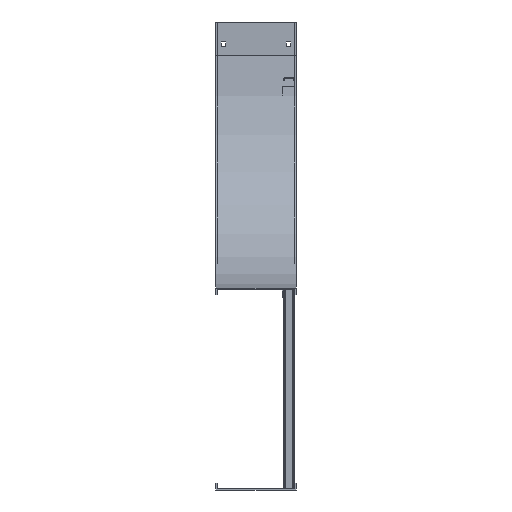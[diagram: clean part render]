
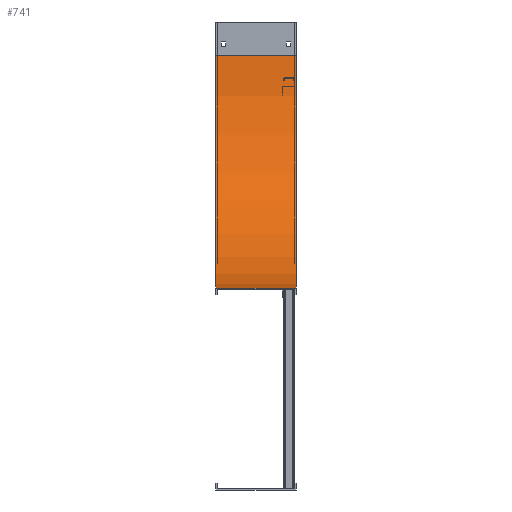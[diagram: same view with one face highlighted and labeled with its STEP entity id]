
A CAD part, left-side view. The second image highlights one B-rep face of the part: STEP entity #741.
In plain terms, the highlighted cylindrical face has radius 533.4 mm (diameter 1066.8 mm), a partial arc.
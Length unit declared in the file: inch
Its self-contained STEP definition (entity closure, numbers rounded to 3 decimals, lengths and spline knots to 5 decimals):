
#156=CARTESIAN_POINT('',(0.,-21.,3.));
#157=DIRECTION('',(1.,0.,0.));
#158=DIRECTION('',(0.,1.,0.));
#159=AXIS2_PLACEMENT_3D('',#156,#157,#158);
#165=DIRECTION('',(1.,0.,0.));
#166=VECTOR('',#165,7.24);
#167=CARTESIAN_POINT('',(-7.24,0.,3.));
#168=LINE('',#167,#166);
#169=CARTESIAN_POINT('',(-7.24,-21.,3.));
#170=DIRECTION('',(1.,0.,0.));
#171=DIRECTION('',(0.,1.,0.));
#172=AXIS2_PLACEMENT_3D('',#169,#170,#171);
#174=DIRECTION('',(1.,0.,0.));
#175=VECTOR('',#174,7.24);
#176=CARTESIAN_POINT('',(-7.24,-21.,24.));
#177=LINE('',#176,#175);
#409=CARTESIAN_POINT('',(-7.24,0.,3.));
#410=CARTESIAN_POINT('',(0.,0.,3.));
#411=VERTEX_POINT('',#409);
#412=VERTEX_POINT('',#410);
#425=CARTESIAN_POINT('',(-7.24,-21.,24.));
#426=CARTESIAN_POINT('',(0.,-21.,24.));
#427=VERTEX_POINT('',#425);
#428=VERTEX_POINT('',#426);
#729=CARTESIAN_POINT('',(-1.,-21.,3.));
#730=DIRECTION('',(1.,0.,0.));
#731=DIRECTION('',(0.,-1.,0.));
#732=AXIS2_PLACEMENT_3D('',#729,#730,#731);
#733=CYLINDRICAL_SURFACE('',#732,21.);
#734=ORIENTED_EDGE('',*,*,#553,.F.);
#735=ORIENTED_EDGE('',*,*,#596,.T.);
#737=ORIENTED_EDGE('',*,*,#736,.T.);
#738=ORIENTED_EDGE('',*,*,#715,.F.);
#739=EDGE_LOOP('',(#734,#735,#737,#738));
#740=FACE_OUTER_BOUND('',#739,.F.);
#741=ADVANCED_FACE('',(#740),#733,.F.);
#160=CIRCLE('',#159,21.);
#173=CIRCLE('',#172,21.);
#553=EDGE_CURVE('',#411,#412,#168,.T.);
#596=EDGE_CURVE('',#411,#427,#173,.T.);
#715=EDGE_CURVE('',#412,#428,#160,.T.);
#736=EDGE_CURVE('',#427,#428,#177,.T.);
